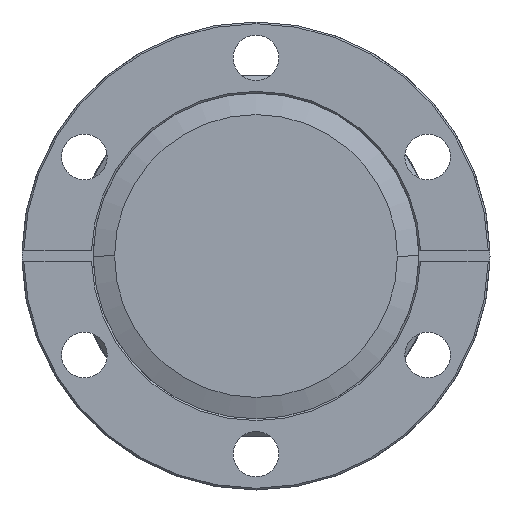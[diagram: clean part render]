
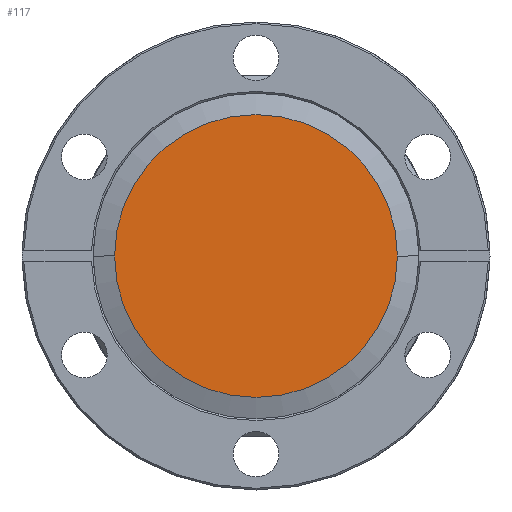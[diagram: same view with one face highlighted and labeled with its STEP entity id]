
A CAD part, front view. The second image highlights one B-rep face of the part: STEP entity #117.
In plain terms, the highlighted planar face has unit normal (0, -1, 0).
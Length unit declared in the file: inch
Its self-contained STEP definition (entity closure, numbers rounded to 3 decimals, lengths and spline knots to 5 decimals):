
#55 = EDGE_CURVE ( 'NONE', #412, #484, #1420, .T. ) ;
#64 = AXIS2_PLACEMENT_3D ( 'NONE', #1732, #3091, #1750 ) ;
#117 = ADVANCED_FACE ( 'Defeatured_259', ( #2112 ), #3537, .T. ) ;
#188 = EDGE_CURVE ( 'NONE', #484, #412, #2704, .T. ) ;
#412 = VERTEX_POINT ( 'NONE', #3046 ) ;
#484 = VERTEX_POINT ( 'NONE', #2083 ) ;
#972 = ORIENTED_EDGE ( 'NONE', *, *, #55, .T. ) ;
#1080 = DIRECTION ( 'NONE',  ( 0., -1., 0. ) ) ;
#1420 = CIRCLE ( 'NONE', #64, 0.825 ) ;
#1732 = CARTESIAN_POINT ( 'NONE',  ( 0., -3.4, 0. ) ) ;
#1750 = DIRECTION ( 'NONE',  ( 1., 0., 0. ) ) ;
#1775 = AXIS2_PLACEMENT_3D ( 'NONE', #3581, #2931, #2576 ) ;
#2083 = CARTESIAN_POINT ( 'NONE',  ( 0.825, -3.4, 0. ) ) ;
#2112 = FACE_OUTER_BOUND ( 'NONE', #3009, .T. ) ;
#2153 = DIRECTION ( 'NONE',  ( -1., 0., 0. ) ) ;
#2576 = DIRECTION ( 'NONE',  ( 1., 0., 0. ) ) ;
#2704 = CIRCLE ( 'NONE', #1775, 0.825 ) ;
#2821 = CARTESIAN_POINT ( 'NONE',  ( 0.825, -3.4, 0. ) ) ;
#2931 = DIRECTION ( 'NONE',  ( 0., -1., 0. ) ) ;
#3009 = EDGE_LOOP ( 'NONE', ( #3532, #972 ) ) ;
#3046 = CARTESIAN_POINT ( 'NONE',  ( -0.825, -3.4, 0. ) ) ;
#3091 = DIRECTION ( 'NONE',  ( 0., -1., 0. ) ) ;
#3532 = ORIENTED_EDGE ( 'NONE', *, *, #188, .T. ) ;
#3537 = PLANE ( 'NONE',  #4197 ) ;
#3581 = CARTESIAN_POINT ( 'NONE',  ( 0., -3.4, 0. ) ) ;
#4197 = AXIS2_PLACEMENT_3D ( 'NONE', #2821, #1080, #2153 ) ;
